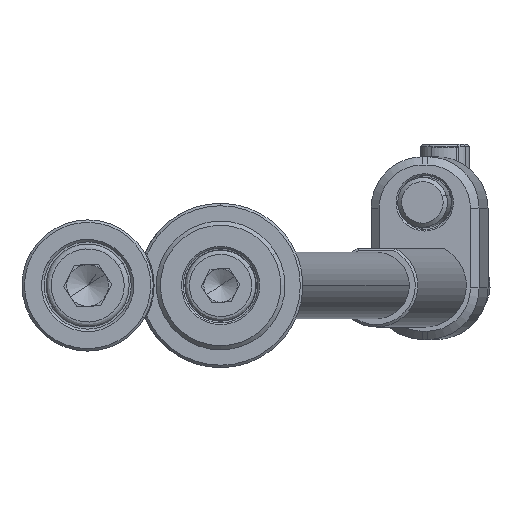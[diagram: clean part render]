
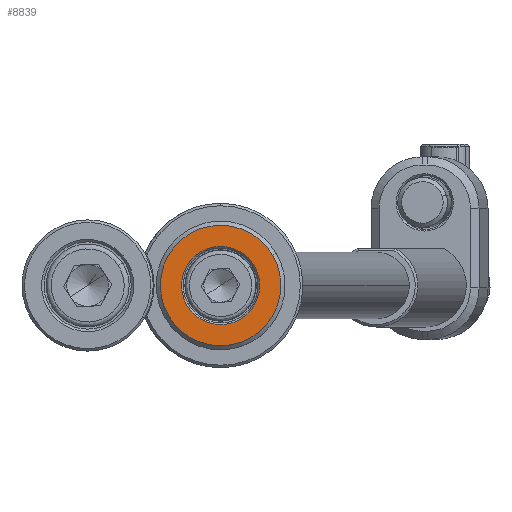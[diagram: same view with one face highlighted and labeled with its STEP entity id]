
A CAD part, front view. The second image highlights one B-rep face of the part: STEP entity #8839.
In plain terms, the highlighted planar face has unit normal (0, -1, 0).
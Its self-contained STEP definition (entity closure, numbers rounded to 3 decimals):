
#366 = CIRCLE ( 'NONE', #1703, 4.7 ) ;
#630 = AXIS2_PLACEMENT_3D ( 'NONE', #11966, #3007, #11703 ) ;
#949 = CARTESIAN_POINT ( 'NONE',  ( -4.063, -4., -2.362 ) ) ;
#1573 = EDGE_LOOP ( 'NONE', ( #12400, #4451 ) ) ;
#1703 = AXIS2_PLACEMENT_3D ( 'NONE', #12634, #12781, #9345 ) ;
#1716 = CIRCLE ( 'NONE', #2625, 7.25 ) ;
#1899 = VERTEX_POINT ( 'NONE', #8644 ) ;
#1916 = EDGE_CURVE ( 'NONE', #11060, #1899, #13043, .T. ) ;
#2074 = FACE_BOUND ( 'NONE', #4064, .T. ) ;
#2625 = AXIS2_PLACEMENT_3D ( 'NONE', #13627, #3823, #11351 ) ;
#3007 = DIRECTION ( 'NONE',  ( 0., 1., 0. ) ) ;
#3321 = CIRCLE ( 'NONE', #13918, 4.7 ) ;
#3758 = ORIENTED_EDGE ( 'NONE', *, *, #7918, .T. ) ;
#3823 = DIRECTION ( 'NONE',  ( 0., -1., 0. ) ) ;
#3958 = FACE_OUTER_BOUND ( 'NONE', #1573, .T. ) ;
#4064 = EDGE_LOOP ( 'NONE', ( #12180, #3758 ) ) ;
#4451 = ORIENTED_EDGE ( 'NONE', *, *, #1916, .T. ) ;
#4504 = DIRECTION ( 'NONE',  ( -0.865, 0., -0.503 ) ) ;
#5102 = EDGE_CURVE ( 'NONE', #1899, #11060, #1716, .T. ) ;
#6148 = EDGE_CURVE ( 'NONE', #10680, #12344, #3321, .T. ) ;
#6384 = DIRECTION ( 'NONE',  ( -0.865, 0., -0.503 ) ) ;
#6890 = CARTESIAN_POINT ( 'NONE',  ( 0., -4., 0. ) ) ;
#7608 = CARTESIAN_POINT ( 'NONE',  ( 6.268, -4., 3.643 ) ) ;
#7918 = EDGE_CURVE ( 'NONE', #12344, #10680, #366, .T. ) ;
#8644 = CARTESIAN_POINT ( 'NONE',  ( -6.268, -4., -3.643 ) ) ;
#8839 = ADVANCED_FACE ( 'NONE', ( #2074, #3958 ), #11901, .F. ) ;
#9345 = DIRECTION ( 'NONE',  ( -0.865, 0., -0.503 ) ) ;
#9438 = CARTESIAN_POINT ( 'NONE',  ( 0., -4., 0. ) ) ;
#9611 = AXIS2_PLACEMENT_3D ( 'NONE', #6890, #13163, #4504 ) ;
#9990 = CARTESIAN_POINT ( 'NONE',  ( 4.063, -4., 2.362 ) ) ;
#10680 = VERTEX_POINT ( 'NONE', #9990 ) ;
#11060 = VERTEX_POINT ( 'NONE', #7608 ) ;
#11351 = DIRECTION ( 'NONE',  ( -0.865, 0., -0.503 ) ) ;
#11703 = DIRECTION ( 'NONE',  ( -0.865, 0., -0.503 ) ) ;
#11901 = PLANE ( 'NONE',  #630 ) ;
#11966 = CARTESIAN_POINT ( 'NONE',  ( 2.261, -4., -3.891 ) ) ;
#12180 = ORIENTED_EDGE ( 'NONE', *, *, #6148, .T. ) ;
#12344 = VERTEX_POINT ( 'NONE', #949 ) ;
#12400 = ORIENTED_EDGE ( 'NONE', *, *, #5102, .T. ) ;
#12634 = CARTESIAN_POINT ( 'NONE',  ( 0., -4., 0. ) ) ;
#12781 = DIRECTION ( 'NONE',  ( 0., 1., 0. ) ) ;
#13043 = CIRCLE ( 'NONE', #9611, 7.25 ) ;
#13163 = DIRECTION ( 'NONE',  ( 0., -1., 0. ) ) ;
#13627 = CARTESIAN_POINT ( 'NONE',  ( 0., -4., 0. ) ) ;
#13819 = DIRECTION ( 'NONE',  ( 0., 1., 0. ) ) ;
#13918 = AXIS2_PLACEMENT_3D ( 'NONE', #9438, #13819, #6384 ) ;
